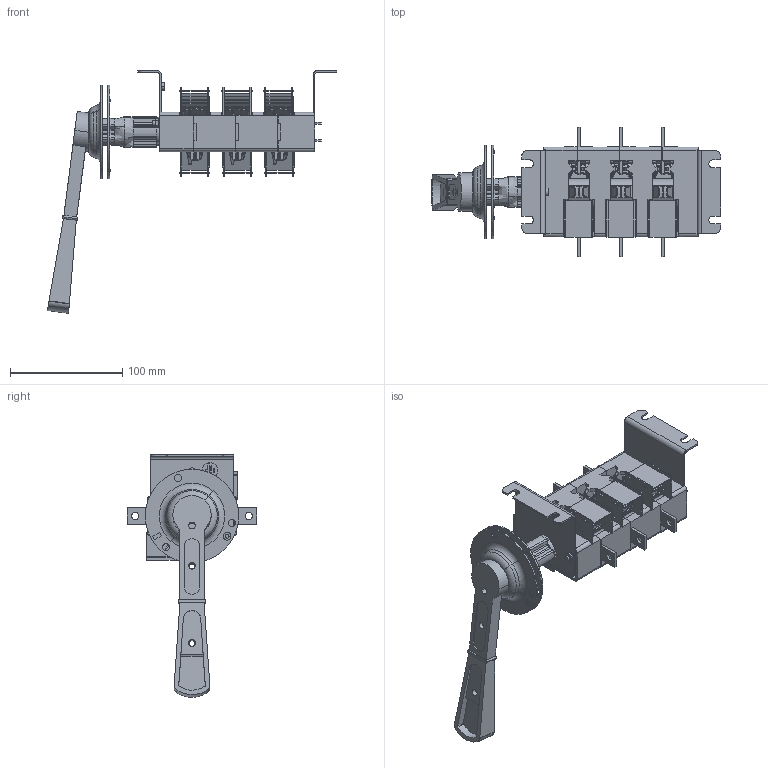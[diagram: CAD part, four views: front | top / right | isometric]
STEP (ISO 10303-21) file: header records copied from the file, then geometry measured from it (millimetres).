
FILE_DESCRIPTION (( 'STEP AP214' ), '1' );
FILE_NAME ('ﾂﾐ32-31ﾔ ﾃﾆﾈﾊ.642423.007-01 (ﾂ31250-100ﾀ).STEP', '2022-07-14T06:45:39', ( '' ), ( '' ), 'SwSTEP 2.0', 'SolidWorks 2018', '' );
FILE_SCHEMA (( 'AUTOMOTIVE_DESIGN' ));
Length unit declared in the file: millimetre
Products named in the file (34): Ñêîáà ÃÆÈÊ.745326.032_“áâ ­®¢«¥­­®¥ á®áâ; ﾘ琺矜 D15; 噪囗弼 闷仁.712378.001; ÈñêðîãàñèòåëüÃÆÈÊ.686433.006; Êîíòàêò ïîäâèæíûé ÃÆÈÊ.745355.054; Áîêîâèíà ïðàâàÿ ÃÆÈÊ.735224.022; Êîðïóñ ñðåäíèé ÃÆÈÊ.735384.080; Êîðïóñ ëåâûé ÃÆÈÊ.735384.081; ﾘ琺矜 ﾃﾆﾈﾊ.758491.056; 想囫蜩磬_-01 (帷獱); ÈñêðîãàñèòåëüÃÆÈÊ741271005_sborka; ﾂﾐ32-31ﾔ ﾃﾆﾈﾊ.642423.007-01 (ﾂ31250-100ﾀ); 买箅赅 闷仁.713141.009; Áîêîâèíà ëåâàÿ ÃÆÈÊ.735224.023; Ðóêîÿòêà ÃÆÈÊ.303658.010; Èñêðîãàñèòåëü; Òàáëè÷êà äëÿ ñáîðêè ÷èñòàÿ áîëüøàÿ; 想囫蜩磬 (牮赅); ÑêîáàÃÆÈÊ.746743.004; ﾎﾁﾎﾋﾎﾗﾊﾀ_ﾍ; ﾏ跖浯 ﾃﾆﾈﾊ.753553.010; Ïëàñòèíà óïðàâëåíèÿ; Øïèëüêà ñïåöèàëüíàÿ ÃÆÈÊ.754292.014_-01(à¥§ì¡ ); Âàë ÃÆÈÊ.715274.009_ƒ†ˆŠ.715274.009; 栺樇罻; ﾘ琺矜 D32; ﾂ鏆鮏 ﾃﾆﾈﾊ.745485.002; 暑痫篑 镳噔 闷仁.735384.079; 澡犟囹铕 闷仁.745484.014; Ãàéêà Ì4; ﾘ琺矜 4; ﾂ琿 ﾃﾆﾈﾊ.303731.003; Êàìåðà äóãîãàñèòåëüíàÿ ÃÆÈÊ.686431.023_01(¯à®¢®«®ª ); Òàáëè÷êà äëÿ ñáîðêè ÷èñòàÿ
Assembly tree (63 placements, depth 4):
  ﾂﾐ32-31ﾔ ﾃﾆﾈﾊ.642423.007-01 (ﾂ31250-100ﾀ)
    暑痫篑 镳噔 闷仁.735384.079
    Êîðïóñ ëåâûé ÃÆÈÊ.735384.081
    Êîðïóñ ñðåäíèé ÃÆÈÊ.735384.080  x2
    Áîêîâèíà ïðàâàÿ ÃÆÈÊ.735224.022
    Áîêîâèíà ëåâàÿ ÃÆÈÊ.735224.023
    Ãàéêà Ì4  x2
    ﾘ琺矜 4  x2
    Øïèëüêà ñïåöèàëüíàÿ ÃÆÈÊ.754292.014_-01(à¥§ì¡ )  x2
    ﾂ鏆鮏 ﾃﾆﾈﾊ.745485.002  x6
    买箅赅 闷仁.713141.009
    噪囗弼 闷仁.712378.001
    Ðóêîÿòêà ÃÆÈÊ.303658.010
      ﾘ琺矜 D32
      ﾘ琺矜 D15
      Ïëàñòèíà óïðàâëåíèÿ
      想囫蜩磬_-01 (帷獱)
      ﾎﾁﾎﾋﾎﾗﾊﾀ_ﾍ
    Êàìåðà äóãîãàñèòåëüíàÿ ÃÆÈÊ.686431.023_01(¯à®¢®«®ª )  x6
      想囫蜩磬 (牮赅)
      栺樇罻
      Èñêðîãàñèòåëü
      ÈñêðîãàñèòåëüÃÆÈÊ.686433.006
        ÈñêðîãàñèòåëüÃÆÈÊ741271005_sborka
        ÑêîáàÃÆÈÊ.746743.004
    Òàáëè÷êà äëÿ ñáîðêè ÷èñòàÿ
    Òàáëè÷êà äëÿ ñáîðêè ÷èñòàÿ áîëüøàÿ
    ﾘ琺矜 ﾃﾆﾈﾊ.758491.056
    ﾂ琿 ﾃﾆﾈﾊ.303731.003
      Âàë ÃÆÈÊ.715274.009_ƒ†ˆŠ.715274.009
      Êîíòàêò ïîäâèæíûé ÃÆÈÊ.745355.054  x6
      Ñêîáà ÃÆÈÊ.745326.032_“áâ ­®¢«¥­­®¥ á®áâ  x6
    ﾏ跖浯 ﾃﾆﾈﾊ.753553.010  x2
    澡犟囹铕 闷仁.745484.014  x2
Bounding box: 257.36 x 115.12 x 215.88 mm (x, y, z)
Volume: 314581.3 mm3; surface area: 276946.7 mm2
Topology: 100 solids, 100 shells, 4420 faces, 11839 edges, 7676 vertices
Faces by surface type: plane 3029, cylinder 1047, bspline 152, torus 138, cone 48, sphere 6
Entity records: 122715 total; most frequent: CARTESIAN_POINT 79286, ORIENTED_EDGE 8480, DIRECTION 8228, EDGE_CURVE 4240, AXIS2_PLACEMENT_3D 2789, VERTEX_POINT 2780, VECTOR 2650, LINE 2650
